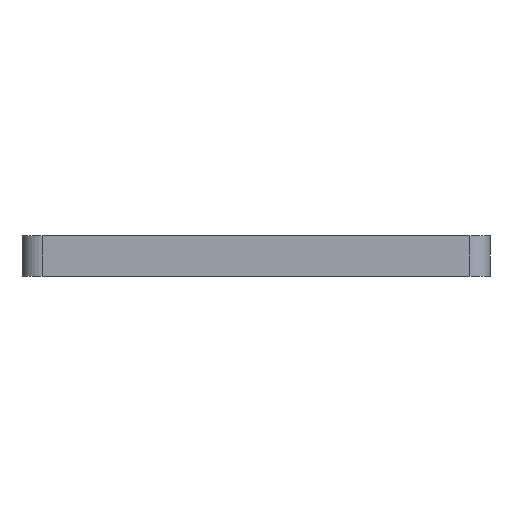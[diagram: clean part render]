
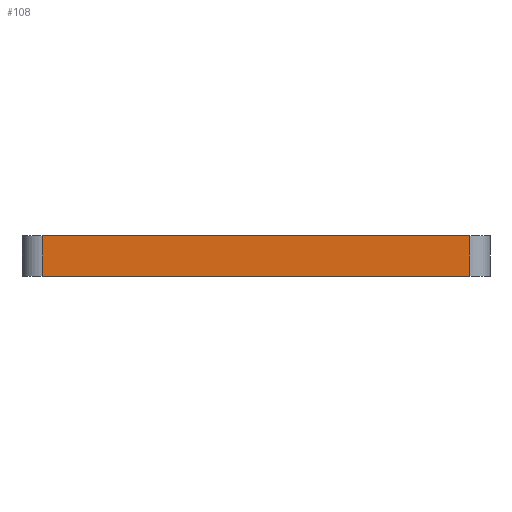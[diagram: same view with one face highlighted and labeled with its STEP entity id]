
A CAD part, left-side view. The second image highlights one B-rep face of the part: STEP entity #108.
In plain terms, the highlighted planar face has unit normal (-1, 0, 0).
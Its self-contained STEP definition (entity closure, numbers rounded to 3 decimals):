
#108=ADVANCED_FACE('23',(#231),#232,.T.);
#231=FACE_OUTER_BOUND('',#365,.T.);
#232=PLANE('',#366);
#365=EDGE_LOOP('',(#766,#767,#768,#769));
#366=AXIS2_PLACEMENT_3D('',#770,#771,#772);
#766=ORIENTED_EDGE('',*,*,#984,.F.);
#767=ORIENTED_EDGE('',*,*,#981,.T.);
#768=ORIENTED_EDGE('',*,*,#986,.F.);
#769=ORIENTED_EDGE('',*,*,#955,.T.);
#770=CARTESIAN_POINT('',(-62.5,17.5,0.0));
#771=DIRECTION('',(-1.0,0.0,0.0));
#772=DIRECTION('',(0.0,1.0,0.0));
#955=EDGE_CURVE('',#1136,#1134,#1137,.T.);
#981=EDGE_CURVE('',#1182,#1180,#1183,.T.);
#984=EDGE_CURVE('',#1182,#1134,#1186,.T.);
#986=EDGE_CURVE('',#1136,#1180,#1188,.T.);
#1134=VERTEX_POINT('',#1633);
#1136=VERTEX_POINT('',#1635);
#1137=LINE('',#1636,#1637);
#1180=VERTEX_POINT('',#1692);
#1182=VERTEX_POINT('',#1694);
#1183=LINE('',#1695,#1696);
#1186=LINE('',#1699,#1700);
#1188=LINE('',#1702,#1703);
#1633=CARTESIAN_POINT('',(-62.5,33.5,0.0));
#1635=CARTESIAN_POINT('',(-62.5,1.5,0.0));
#1636=CARTESIAN_POINT('',(-62.5,0.,0.0));
#1637=VECTOR('',#1802,1.0);
#1692=CARTESIAN_POINT('',(-62.5,1.5,-3.0));
#1694=CARTESIAN_POINT('',(-62.5,33.5,-3.0));
#1695=CARTESIAN_POINT('',(-62.5,0.,-3.0));
#1696=VECTOR('',#1845,1.0);
#1699=CARTESIAN_POINT('',(-62.5,33.5,0.0));
#1700=VECTOR('',#1849,1.0);
#1702=CARTESIAN_POINT('',(-62.5,1.5,0.0));
#1703=VECTOR('',#1850,1.0);
#1802=DIRECTION('',(0.0,1.0,0.0));
#1845=DIRECTION('',(-0.0,-1.0,-0.0));
#1849=DIRECTION('',(-0.0,-0.0,1.0));
#1850=DIRECTION('',(0.0,-0.0,-1.0));
